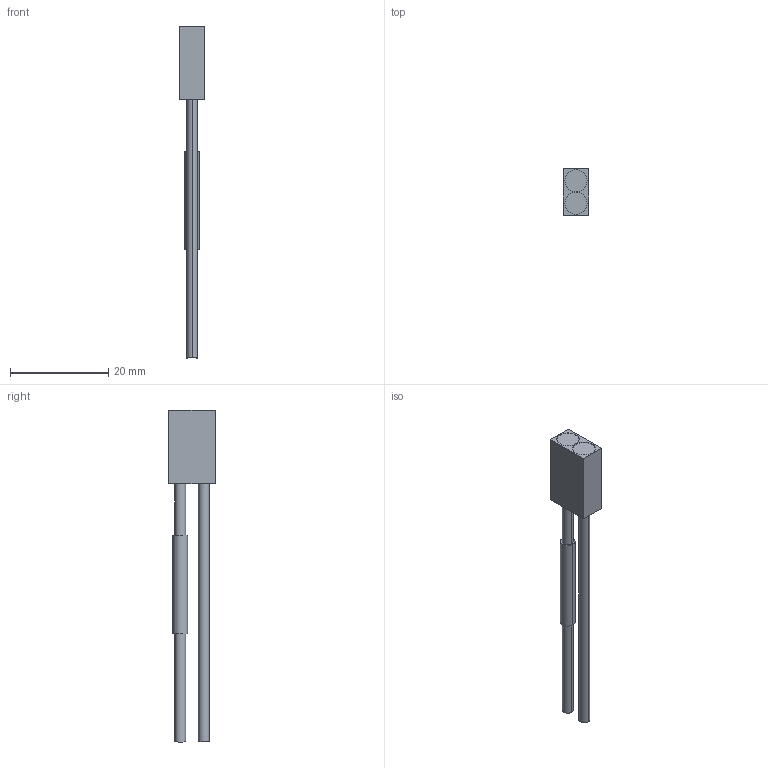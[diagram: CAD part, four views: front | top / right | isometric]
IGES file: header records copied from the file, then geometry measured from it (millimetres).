
Start section: SolidWorks IGES FILE using analytic representation for surfaces
Global section: file name: C:\Documents and Settings\yk0651\デスクトップ\3D_catalog_050904\0_IGES\FD-WKZ1.IGS; native system: SolidWorks 2004 by SolidWorks Corporation; preprocessor: Version 5.3; author: yk0651; date: 050904.192629; units: millimetre
Bounding box: 5.2 x 9.5 x 67.5 mm (x, y, z)
Volume: 1202.3 mm3; surface area: 1325.1 mm2
Topology: 1 solids, 1 shells, 24 faces, 48 edges, 32 vertices
Faces by surface type: revolution 12, plane 12
